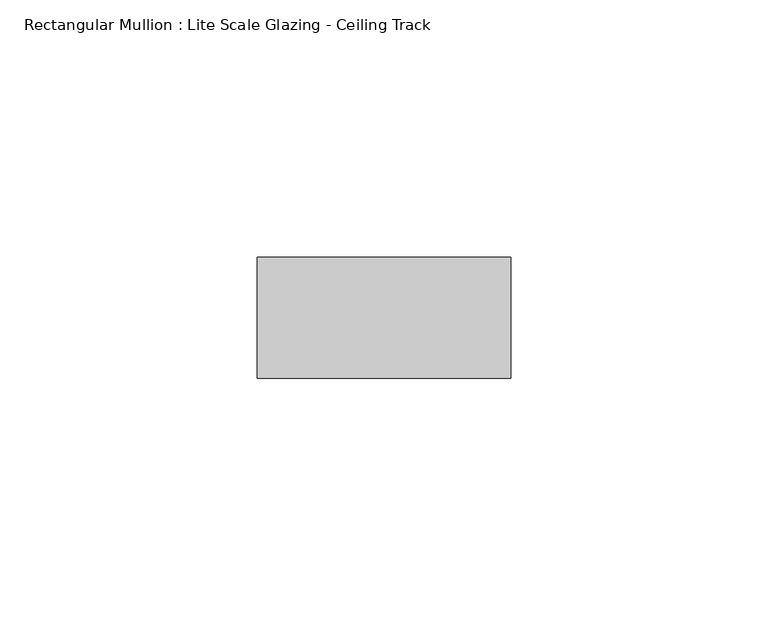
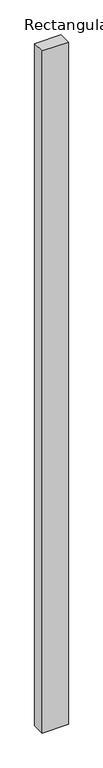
"""IFC4 building model written with IfcOpenShell, lengths in millimetres: member geometry, Rectangular Mullion : Lite Scale Glazing - Ceiling Track."""

from ifc_helpers import new_model, si_unit, frame, origin, place, context, project, spatial, polyline, outline, extrude, source, transform, mapped, element, save


def rectangular_mullion_lite_scale_glazing_ceiling_track_8b229d59(model_context):
    return source(origin(), model_context, "Body", "SweptSolid", [
        extrude(outline(polyline([(-49.276, -11.7474999), (-49.276, 11.7474999), (0.0, 11.7474999), (0.0, -11.7474999), (-49.276, -11.7474999)])), frame((0.0, 0.0, -1346.2), z_axis=(0.0, 0.0, 1.0), x_axis=(1.0, 0.0, 0.0)), (0.0, 0.0, 1.0), 1346.2),
    ])


if __name__ == "__main__":
    model = new_model("IFC4")
    model_context = context("Model", 3, world=origin())
    ifc_project = project(units=[si_unit("LENGTHUNIT", "METRE", prefix="MILLI")], contexts=[model_context])
    site = spatial("IfcSite", under=ifc_project)
    building = spatial("IfcBuilding", under=site)
    placement = place(None, origin())
    rectangular_mullion_lite_scale_glazing_ceiling_track_shape = rectangular_mullion_lite_scale_glazing_ceiling_track_8b229d59(model_context)
    element("IfcMember", 1, ObjectType="Rectangular Mullion : Lite Scale Glazing - Ceiling Track", at=placement, inside=building, context=model_context, shape_type="MappedRepresentation", body=[
        mapped(rectangular_mullion_lite_scale_glazing_ceiling_track_shape, transform((0.0, 0.0, 0.0), x_axis=(1.0, 0.0, 0.0), y_axis=(0.0, 1.0, 0.0), z_axis=(0.0, 0.0, 1.0))),
    ])
    save(model, "model.ifc")
